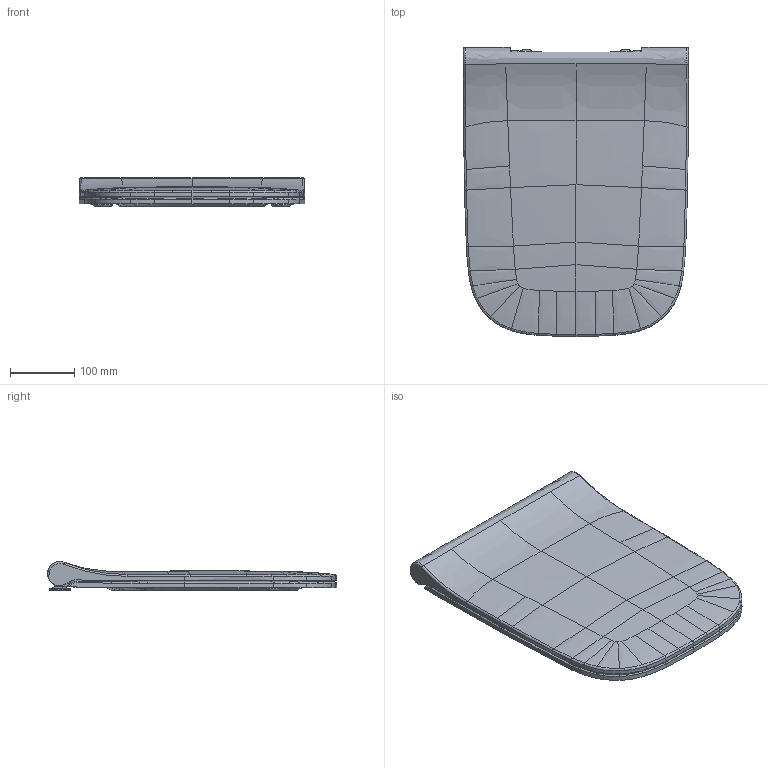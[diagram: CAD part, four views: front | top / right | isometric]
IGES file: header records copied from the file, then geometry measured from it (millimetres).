
Global section: file name: 500240; native system: Autodesk Inventor 2018; preprocessor: unknown; author: JANAN; date: 20200430.091638; units: millimetre
Bounding box: 352.03 x 450.77 x 44.8 mm (x, y, z)
Volume: 1480315.4 mm3; surface area: 535499.8 mm2
Topology: 1 solids, 1 shells, 789 faces, 1996 edges, 1207 vertices
Faces by surface type: bspline 789
